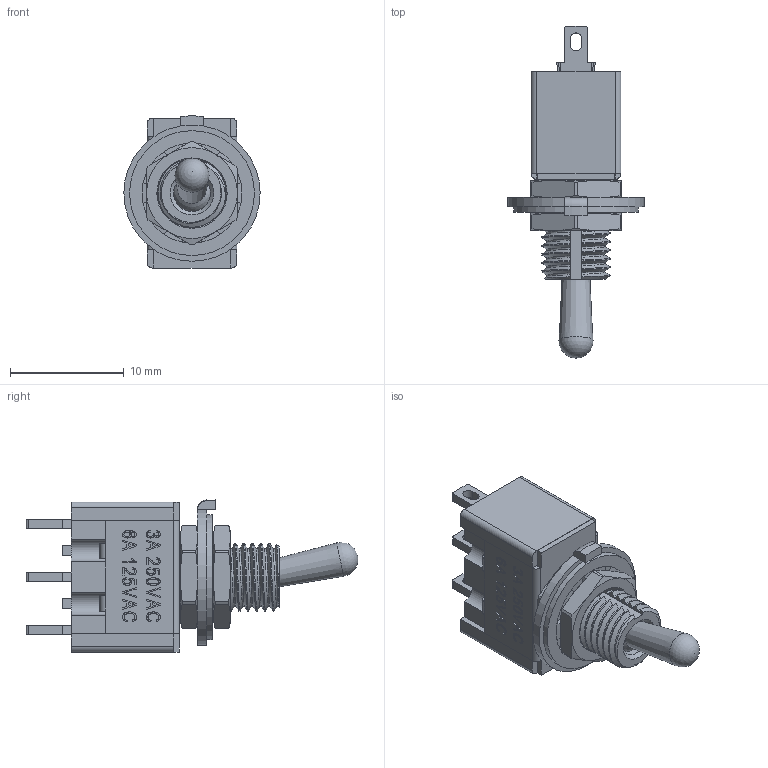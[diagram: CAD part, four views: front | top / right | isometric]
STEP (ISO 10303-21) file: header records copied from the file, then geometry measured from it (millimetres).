
FILE_DESCRIPTION(('STEP AP214'), '1');
FILE_NAME('MTS-1xx-X1', '', ('UNSPECIFIED'), ('UNSPECIFIED'), 'ASCON STEP Converter 1.6', 'ASCON Math Kernel', '');
FILE_SCHEMA(('AUTOMOTIVE_DESIGN { 1 0 10303 214 3 1 1}'));
Length unit declared in the file: millimetre
Products named in the file (7): Handle; L; Housing
Assembly tree (6 placements, depth 2):
  (unnamed)
    (unnamed)
    Handle
    (unnamed)
    L
    (unnamed)
    Housing
Bounding box: 12 x 29.23 x 13.39 mm (x, y, z)
Volume: 1042.2 mm3; surface area: 2962.5 mm2
Topology: 15 solids, 15 shells, 1244 faces, 3420 edges, 2241 vertices
Faces by surface type: cylinder 577, plane 561, cone 52, bspline 45, torus 5, sphere 4
Full cylindrical faces by diameter (mm): 1.48 x2, 1.6 x1, 3.25 x1, 3.55 x1, 4.05 x1, 6 x2, 7 x1, 11 x1
Entity records: 72300 total; most frequent: CARTESIAN_POINT 29820, ORIENTED_EDGE 6770, DIRECTION 6755, EDGE_CURVE 3385, AXIS2_PLACEMENT_3D 2379, VERTEX_POINT 2232, LINE 1997, VECTOR 1997
